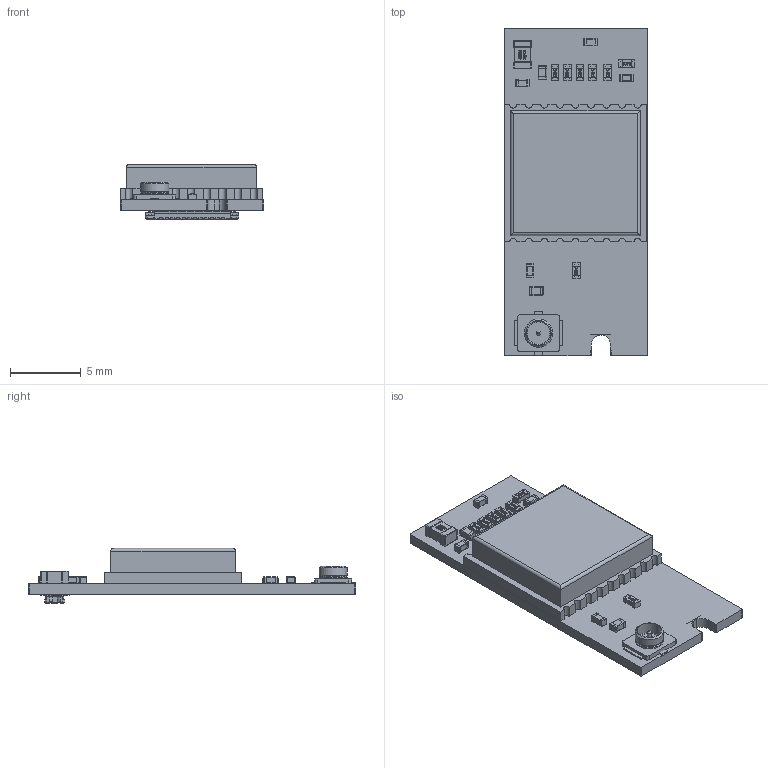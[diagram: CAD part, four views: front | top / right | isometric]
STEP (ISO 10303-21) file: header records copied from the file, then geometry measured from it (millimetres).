
FILE_DESCRIPTION(/* description */ (''),/* implementation_level */ '2;1');
FILE_NAME(/* name */ 'RAK1910.step',/* time_stamp */ '2025-08-26T12:41:35+08:00',/* author */ (''),/* organization */ (''),/* preprocessor_version */ 'ST-DEVELOPER v20.1',/* originating_system */ 'Autodesk Translation Framework v14.10.0.0',/* authorisation */ '');
FILE_SCHEMA (('AUTOMOTIVE_DESIGN { 1 0 10303 214 3 1 1 }'));
Length unit declared in the file: millimetre
Products named in the file (37): RAK1910; Board; Open CASCADE STEP translator 6.8 6.1.1; Open CASCADE STEP translator 6.8 6.1.1.1; Open CASCADE STEP translator 6.8 6.1.1.2; Open CASCADE STEP translator 6.8 6.1.1.3; Open CASCADE STEP translator 6.8 6.1.1.4; C11; C13; C19; C17; C0402; C12; C0805; E1; L1; L0402; R24; R29; R30; R28; R26; R25; R31; RES_1005-0402; U7; max-7q; J8; UFL-R-SMD; Part_525; Part_739; Part_578; Part_540; Part_562; Part_555; J7; axe624124
Assembly tree (46 placements, depth 4):
  RAK1910
    Board
      Open CASCADE STEP translator 6.8 6.1.1
        Open CASCADE STEP translator 6.8 6.1.1.1
        Open CASCADE STEP translator 6.8 6.1.1.2
        Open CASCADE STEP translator 6.8 6.1.1.3
        Open CASCADE STEP translator 6.8 6.1.1.4
    C11
      C0402
    C13
      C0402
    C19
      C0402
    C17
      C0402
    C12
      C0805
    E1
      L0402
    L1
      L0402
    R24
      RES_1005-0402
    R29
      RES_1005-0402
    R30
      RES_1005-0402
    R28
      RES_1005-0402
    R26
      RES_1005-0402
    R25
      RES_1005-0402
    R31
      RES_1005-0402
    U7
      max-7q
    J8
      UFL-R-SMD
        Part_525
        Part_739
        Part_578
        Part_540
        Part_562
        Part_555
    J7
      axe624124
Bounding box: 10.18 x 23.15 x 3.9 mm (x, y, z)
Volume: 397.1 mm3; surface area: 941.9 mm2
Topology: 47 solids, 47 shells, 1813 faces, 4540 edges, 2810 vertices
Faces by surface type: plane 1085, bspline 322, cylinder 298, sphere 96, cone 8, torus 4
Full cylindrical faces by diameter (mm): 0.3 x1, 1.7 x1, 1.9 x1, 2 x2, 2.819 x1
Entity records: 34516 total; most frequent: CARTESIAN_POINT 9595, ORIENTED_EDGE 5140, DIRECTION 4669, EDGE_CURVE 2570, LINE 1855, VECTOR 1855, VERTEX_POINT 1630, AXIS2_PLACEMENT_3D 1407
